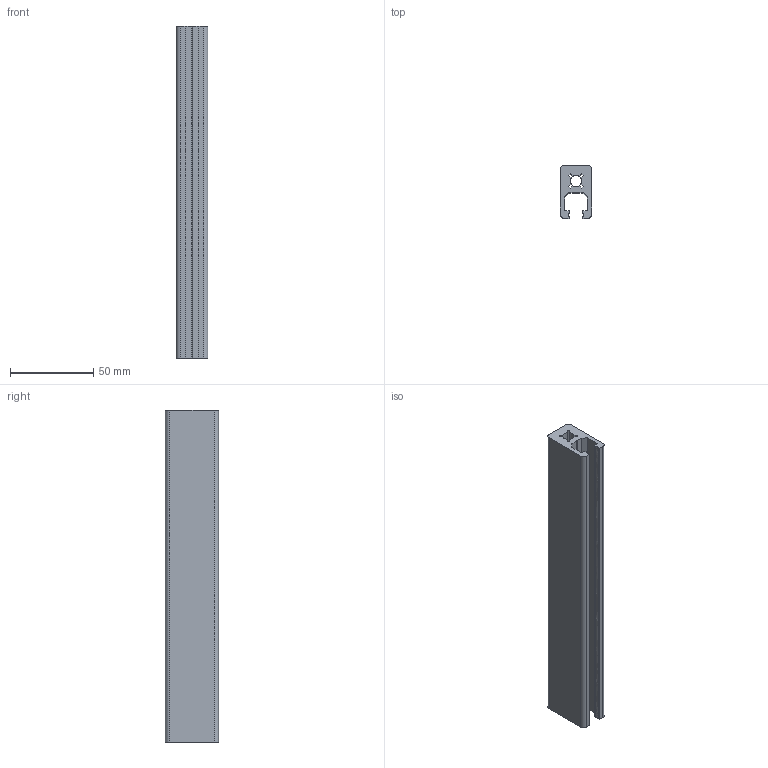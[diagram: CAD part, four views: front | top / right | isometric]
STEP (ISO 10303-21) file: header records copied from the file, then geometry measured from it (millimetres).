
FILE_DESCRIPTION (( 'STEP AP203' ), '1' );
FILE_NAME ('009225 REF 1932.STEP', '2015-12-01T11:52:50', ( '' ), ( '' ), 'SwSTEP 2.0', 'SolidWorks 2015', '' );
FILE_SCHEMA (( 'CONFIG_CONTROL_DESIGN' ));
Length unit declared in the file: millimetre
Products named in the file (1): 009225 REF 1932
Bounding box: 19 x 32 x 200 mm (x, y, z)
Volume: 74836.9 mm3; surface area: 35841.7 mm2
Topology: 1 solids, 1 shells, 45 faces, 129 edges, 86 vertices
Faces by surface type: plane 31, cylinder 12, bspline 2
Entity records: 1562 total; most frequent: CARTESIAN_POINT 295, ORIENTED_EDGE 258, DIRECTION 237, EDGE_CURVE 129, VECTOR 101, LINE 101, VERTEX_POINT 86, AXIS2_PLACEMENT_3D 68
